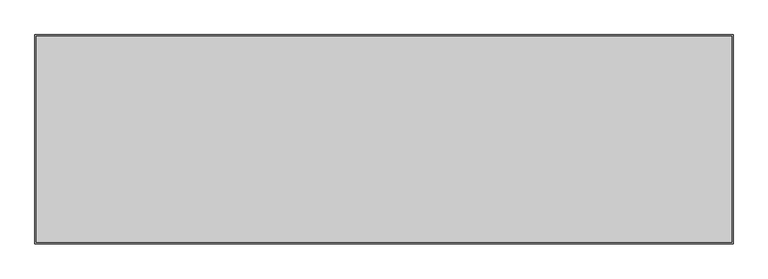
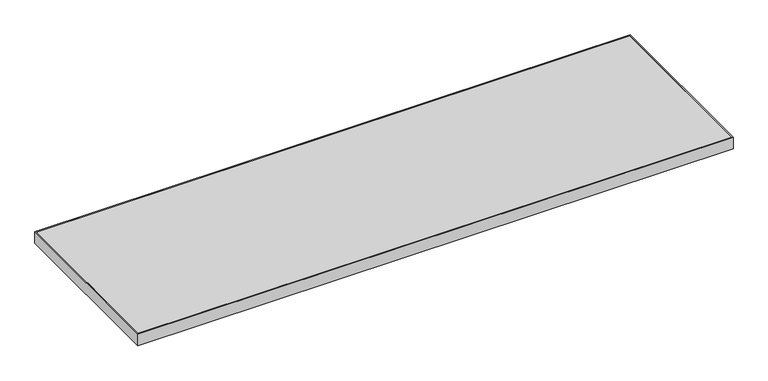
"""IFC4 building model written with IfcOpenShell, lengths in millimetres: furniture geometry, Steelcase - Universal Storage - Square Edge Top - Flush Front - Laminate : Common Top - 18D x 60W."""

import ifcopenshell
import ifcopenshell.guid

model = None  # the IFC model being written
_history = None  # IfcOwnerHistory: only IFC2X3 demands one
_inside = {}  # id of a spatial element -> (the spatial element, [elements in it])
_under = {}  # id of a project, library or spatial element -> (it, [spatial elements below it])
_declared = {}  # id of a project -> (the project, [libraries it declares])
_typed = {}  # id of a type object -> (the type object, [elements of that type])
_made_of = {}  # id of a material, layer set ... -> (it, [elements and type objects made of it])


def new_model(schema):
    """Start an empty IFC model of exactly this schema.

    Asked for "IFC4X3", IfcOpenShell would pick the latest addendum, in which some entities
    have other attributes; the version numbers below select the first issue.
    IFC2X3 requires an IfcOwnerHistory on every rooted entity: one is made here for all.
    """
    global model, _history
    if schema == "IFC4X3":
        model = ifcopenshell.file(schema_version=(4, 3, 0, 0))
    else:
        model = ifcopenshell.file(schema=schema)
    _inside.clear()
    _under.clear()
    _declared.clear()
    _typed.clear()
    _made_of.clear()
    _history = None
    if model.schema == "IFC2X3":
        org = make("IfcOrganization", Name="unknown")
        user = make(
            "IfcPersonAndOrganization",
            ThePerson=make("IfcPerson", FamilyName="unknown"),
            TheOrganization=org,
        )
        app = make(
            "IfcApplication",
            ApplicationDeveloper=org,
            Version="unknown",
            ApplicationFullName="unknown",
            ApplicationIdentifier="unknown",
        )
        _history = make(
            "IfcOwnerHistory",
            OwningUser=user,
            OwningApplication=app,
            ChangeAction="ADDED",
            CreationDate=0,
        )
    return model


def make(cls, **values):
    """One entity of the class cls with the attributes given. An attribute that is None is left unset."""
    return model.create_entity(
        cls, **{name: value for name, value in values.items() if value is not None}
    )


def rooted(cls, **values):
    """An entity with a GlobalId (a new one), such as an element, a storey or a relation."""
    return make(cls, GlobalId=ifcopenshell.guid.new(), OwnerHistory=_history, **values)


def si_unit(unit_type, name, prefix=None):
    """IfcSIUnit, for example si_unit("LENGTHUNIT", "METRE", prefix="MILLI")."""
    return make("IfcSIUnit", UnitType=unit_type, Prefix=prefix, Name=name)


def assignment(units):
    """IfcUnitAssignment: the units of a project."""
    return None if units is None else make("IfcUnitAssignment", Units=units)


def point(xyz):
    """IfcCartesianPoint."""
    return None if xyz is None else make("IfcCartesianPoint", Coordinates=xyz)


def direction(xyz):
    """IfcDirection."""
    return None if xyz is None else make("IfcDirection", DirectionRatios=xyz)


def frame(location, z_axis=None, x_axis=None):
    """IfcAxis2Placement3D, a coordinate frame: its origin and axes. An axis left out is left unset."""
    return make(
        "IfcAxis2Placement3D",
        Location=point(location),
        Axis=direction(z_axis),
        RefDirection=direction(x_axis),
    )


def origin():
    """The frame at (0, 0, 0) with its axes left unset."""
    return frame((0.0, 0.0, 0.0))


def place(relative_to, where):
    """IfcLocalPlacement: puts the frame where relative to a parent placement (None: the world)."""
    return make(
        "IfcLocalPlacement", PlacementRelTo=relative_to, RelativePlacement=where
    )


def context(
    kind, dimensions, precision=None, world=None, true_north=None, identifier=None
):
    """IfcGeometricRepresentationContext, for example the 3D "Model" context."""
    return make(
        "IfcGeometricRepresentationContext",
        ContextIdentifier=identifier,
        ContextType=kind,
        CoordinateSpaceDimension=dimensions,
        Precision=precision,
        WorldCoordinateSystem=world,
        TrueNorth=true_north,
    )


def project(units=None, contexts=None):
    """IfcProject with its units and contexts."""
    return rooted(
        "IfcProject",
        Name="project",
        RepresentationContexts=contexts,
        UnitsInContext=assignment(units),
    )


def spatial(cls, under=None, at=None, **own):
    """A site, building, storey or space (cls), placed at a placement, below another one or the project."""
    s = rooted(cls, ObjectPlacement=at, **own)
    if under is not None:
        _under.setdefault(under.id(), (under, []))[1].append(s)
    return s


def polyline(points):
    """IfcPolyline through the points."""
    return make("IfcPolyline", Points=[point(p) for p in points])


def outline(outer, holes=None, kind="AREA"):
    """IfcArbitraryClosedProfileDef: a profile drawn as a closed curve; with holes, ...WithVoids."""
    if holes is None:
        return make("IfcArbitraryClosedProfileDef", ProfileType=kind, OuterCurve=outer)
    return make(
        "IfcArbitraryProfileDefWithVoids",
        ProfileType=kind,
        OuterCurve=outer,
        InnerCurves=holes,
    )


def extrude(swept, where, along, depth):
    """IfcExtrudedAreaSolid: the profile swept, set in the frame where, extruded along a direction by depth."""
    return make(
        "IfcExtrudedAreaSolid",
        SweptArea=swept,
        Position=where,
        ExtrudedDirection=direction(along),
        Depth=depth,
    )


def shape(context_of_items, identifier, shape_type, items):
    """IfcShapeRepresentation: the items that make up one representation, for example the "Body"."""
    return make(
        "IfcShapeRepresentation",
        ContextOfItems=context_of_items,
        RepresentationIdentifier=identifier,
        RepresentationType=shape_type,
        Items=items,
    )


def source(mapping_origin, context_of_items, identifier, shape_type, items):
    """IfcRepresentationMap: a shape defined once, which mapped items show again and again."""
    return make(
        "IfcRepresentationMap",
        MappingOrigin=mapping_origin,
        MappedRepresentation=shape(context_of_items, identifier, shape_type, items),
    )


def transform(
    local_origin,
    x_axis=None,
    y_axis=None,
    z_axis=None,
    scale=None,
    scale2=None,
    scale3=None,
    uniform=True,
):
    """IfcCartesianTransformationOperator3D, or its non-uniform kind. x_axis, y_axis, z_axis: its Axis1, 2, 3."""
    if uniform:
        return make(
            "IfcCartesianTransformationOperator3D",
            Axis1=direction(x_axis),
            Axis2=direction(y_axis),
            LocalOrigin=point(local_origin),
            Scale=scale,
            Axis3=direction(z_axis),
        )
    return make(
        "IfcCartesianTransformationOperator3DnonUniform",
        Axis1=direction(x_axis),
        Axis2=direction(y_axis),
        LocalOrigin=point(local_origin),
        Scale=scale,
        Axis3=direction(z_axis),
        Scale2=scale2,
        Scale3=scale3,
    )


def mapped(mapping_source, mapping_target):
    """IfcMappedItem: shows the shape of a source again, moved by a transform."""
    return make(
        "IfcMappedItem", MappingSource=mapping_source, MappingTarget=mapping_target
    )


def made_of(thing, what):
    """Note that an element or type object is made of a material, layer set ...; save() writes the relation."""
    if what is not None:
        _made_of.setdefault(what.id(), (what, []))[1].append(thing)
    return thing


def element(
    cls,
    number,
    at=None,
    inside=None,
    cuts=None,
    type_object=None,
    material=None,
    context=None,
    identifier="Body",
    shape_type=None,
    held_by="IfcProductDefinitionShape",
    body=None,
    shapes=None,
    **own,
):
    """One element of the class cls, such as IfcWall. Its Tag is "e" and its number.

    at: its placement. inside: the storey or other place that contains it. cuts: it is an
    opening in that element (IfcRelVoidsElement). A single representation is given by context,
    identifier, shape_type and body (its items); several are given by shapes. held_by: the class
    of the entity that holds the representations. save() writes the other relations.
    """
    e = rooted(cls, Tag="e%d" % number, ObjectPlacement=at, **own)
    if body is not None:
        shapes = [shape(context, identifier, shape_type, body)]
    if shapes is not None:
        e.Representation = make(held_by, Representations=shapes)
    if inside is not None:
        _inside.setdefault(inside.id(), (inside, []))[1].append(e)
    if cuts is not None:
        rooted(
            "IfcRelVoidsElement", RelatingBuildingElement=cuts, RelatedOpeningElement=e
        )
    if type_object is not None:
        _typed.setdefault(type_object.id(), (type_object, []))[1].append(e)
    return made_of(e, material)


def aggregate(whole, parts):
    """IfcRelAggregates: a whole, such as a stair, and the parts it consists of."""
    return rooted("IfcRelAggregates", RelatingObject=whole, RelatedObjects=parts)


def save(model, path):
    """Write the relations noted so far, then the file.

    IfcRelAggregates (storeys below a building ...), IfcRelContainedInSpatialStructure (elements
    in a storey), IfcRelDefinesByType, IfcRelAssociatesMaterial and IfcRelDeclares: one each for
    every whole, place, type object, material and project.
    """
    for whole, parts in _under.values():
        aggregate(whole, parts)
    for where, things in _inside.values():
        rooted(
            "IfcRelContainedInSpatialStructure",
            RelatedElements=things,
            RelatingStructure=where,
        )
    for kind, things in _typed.values():
        rooted("IfcRelDefinesByType", RelatedObjects=things, RelatingType=kind)
    for what, things in _made_of.values():
        rooted("IfcRelAssociatesMaterial", RelatedObjects=things, RelatingMaterial=what)
    for by, libraries in _declared.values():
        rooted("IfcRelDeclares", RelatingContext=by, RelatedDefinitions=libraries)
    model.write(path)


def furniture_52624001(model_context):
    return source(origin(), model_context, "Body", "SweptSolid", [
        extrude(outline(polyline([(1520.9520001, -3.0479999), (1520.9520001, -454.1520001), (3.0479999, -454.1520001), (3.0479999, -3.0479999), (1520.9520001, -3.0479999)])), frame((0.0, 0.0, 680.72), z_axis=(0.0, 0.0, 1.0), x_axis=(1.0, 0.0, 0.0)), (0.0, 0.0, 1.0), 30.48),
        extrude(outline(polyline([(1524.0, 0.0), (1524.0, -457.2), (0.0, -457.2), (0.0, 0.0), (1524.0, 0.0)]), holes=[polyline([(1520.9520001, -3.0479999), (3.0479999, -3.0479999), (3.0479999, -454.1520001), (1520.9520001, -454.1520001), (1520.9520001, -3.0479999)])]), frame((0.0, 0.0, 680.72), z_axis=(0.0, 0.0, 1.0), x_axis=(1.0, 0.0, 0.0)), (0.0, 0.0, 1.0), 30.48),
    ])


if __name__ == "__main__":
    model = new_model("IFC4")
    model_context = context("Model", 3, world=origin())
    ifc_project = project(units=[si_unit("LENGTHUNIT", "METRE", prefix="MILLI")], contexts=[model_context])
    site = spatial("IfcSite", under=ifc_project)
    building = spatial("IfcBuilding", under=site)
    placement = place(None, origin())
    furniture_shape = furniture_52624001(model_context)
    element("IfcFurniture", 1, ObjectType="Steelcase - Universal Storage - Square Edge Top - Flush Front - Laminate : Common Top - 18D x 60W", at=placement, inside=building, context=model_context, shape_type="MappedRepresentation", body=[
        mapped(furniture_shape, transform((0.0, 0.0, 0.0), x_axis=(1.0, 0.0, 0.0), y_axis=(0.0, 1.0, 0.0), z_axis=(0.0, 0.0, 1.0))),
    ])
    save(model, "model.ifc")
